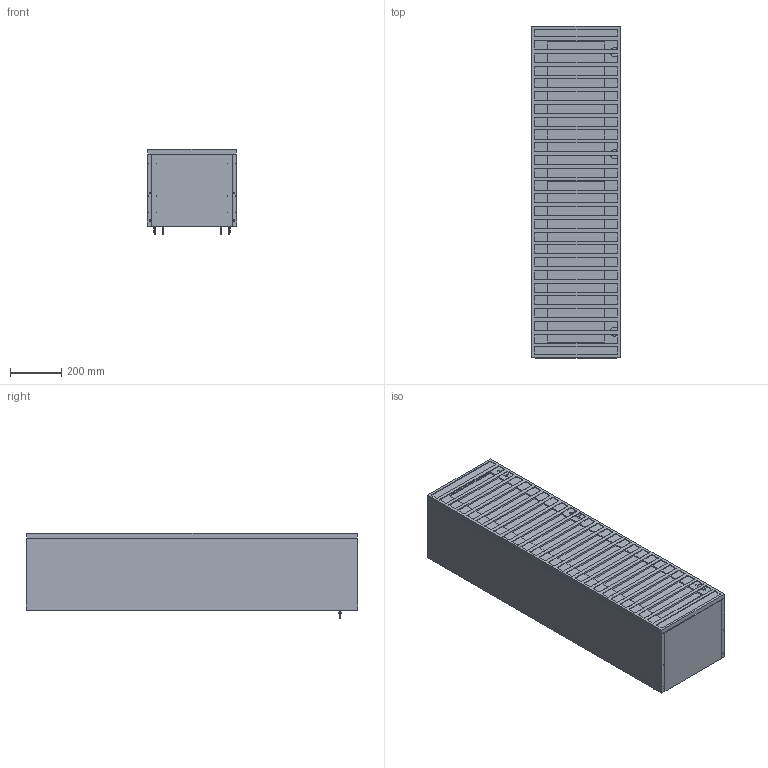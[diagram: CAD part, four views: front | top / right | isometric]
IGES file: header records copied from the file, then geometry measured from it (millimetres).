
Global section: file name: 3D Dosyası,; native system: Autodesk Inventor 2024; preprocessor: unknown; author: pc11; date: 20250708.134317; units: millimetre
Bounding box: 350 x 1300 x 333.1 mm (x, y, z)
Volume: 25285168.4 mm3; surface area: 4864787.2 mm2
Topology: 28 solids, 32 shells, 2891 faces, 7569 edges, 4771 vertices
Faces by surface type: bspline 2891
